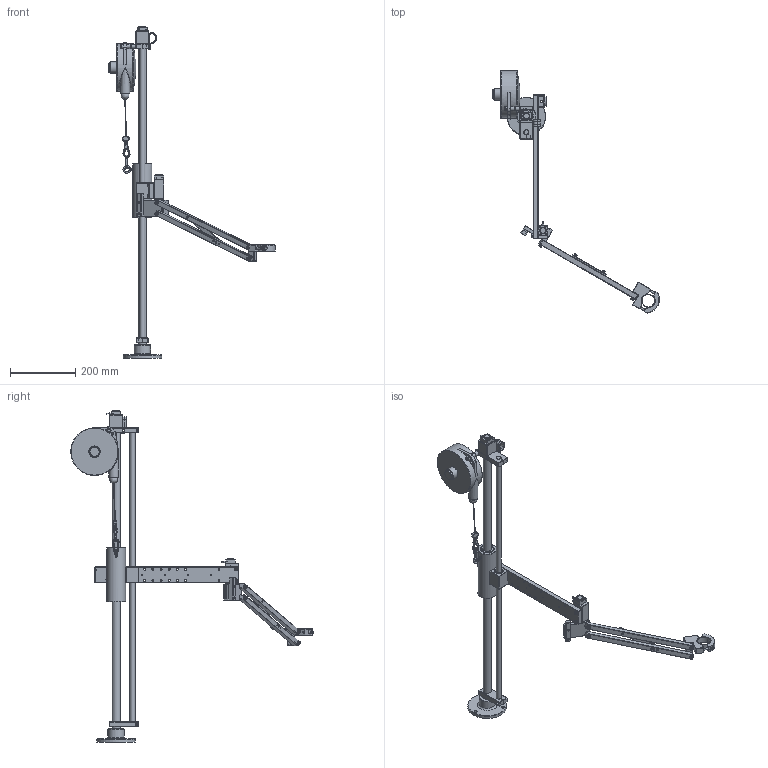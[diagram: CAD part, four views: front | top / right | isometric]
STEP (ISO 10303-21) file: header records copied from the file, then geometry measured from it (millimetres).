
FILE_DESCRIPTION( ( 'Unknown' ), '1' );
FILE_NAME( 'E:/0 Travail/0 Travaux en cours/Doga/Assemblage 2014/BIBLIOTEQUE 3D/Industrie 2008/08-52-3386 DOGA BA40 R DPA/4-1200473_bras BA 40 RPC/4-1200473_bras BA 40 RPC.stp', 'Unknown', ( 'Unknown' ), ( 'Unknown' ), 'PSStep 14.0', 'Unknown', ' ' );
FILE_SCHEMA( ( 'AUTOMOTIVE_DESIGN { 1 0 10303 214 1 1 1 1 }' ) );
Length unit declared in the file: millimetre
Products named in the file (52): Pince BA40R; pince BA40R; CHC M6x45 fileté sous tete; CHC M6x45 fileté sous tete-oa1; Collier; Placement'; Asm avant bras BA40R-0; 16 Z; Platine 2; Butée BA40R DPA; Carré inférieur BA40R; Règle immobilisatrice; CHC M6x20; CHC M6x30; Pivot N°1 - BA40R DPA; Carré supérieur BA40R; Mat BA40R DPA; Vis HC M8x12 à bout plat; Pied BA40R; Axe mat BA100R DPA; Equilibreur BA40R modifi\X2\00E\X0\; Equilibreur 6 - 8Kg; CHC M8x50; Assem1; Douille KB25; Douille KB25-oa0; Fourreau BA40R; Plaque support BA40R; Roulement à aiguilles HK1616; Rondelle AS1226; Butée à aiguilles AXK1226; Anneau élastique pour arbre 12; Aimant; Douille KB16; Axe Ø16- BA40R DPA; Rondelle AS1730; Butée à aiguilles AXK1730; fourreau supérieur pour BA40R DPA; Anneau élastique pour arbre 16; Entretoise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
Assembly tree (68 placements, depth 4):
  Assem1
    Douille KB25
    Douille KB25-oa0
    Fourreau BA40R
    Plaque support BA40R
    Roulement à aiguilles HK1616  x4
    Rondelle AS1226  x2
    Butée à aiguilles AXK1226
    Anneau élastique pour arbre 12
    Aimant  x2
    Douille KB16
    Axe Ø16- BA40R DPA
    Rondelle AS1730  x2
    Butée à aiguilles AXK1730
    fourreau supérieur pour BA40R DPA
    Anneau élastique pour arbre 16
    Entretoise  x2
    Pivot N°3 - BA12R DPA
    Axe Ø16 DPA
    Platine fixation fourreau pour BA40R DPA
    Platine fixation N°2 - BA40R DPA
    Boitier de dérivation
    Piton M6
    CHC M6x30  x2
    FHC M6x20  x4
    Pivot N°2 - BA40R DPA
    Capteur de position angulaire QUADRO-R  x2
    Cable gros équilibreur
    Collier larg 20
    Collier larg 20
    Mat BA40R DPA
      Vis HC M8x12 à bout plat
      Pied BA40R
      Axe mat BA100R DPA
    Equilibreur BA40R modifi\X2\00E\X0\
      Equilibreur 6 - 8Kg
      CHC M8x50
    Asm avant bras BA40R-0
      16 Z
      Platine 2
      Butée BA40R DPA
      Carré inférieur BA40R
      Règle immobilisatrice
      CHC M6x20  x2
      CHC M6x30  x4
      Pivot N°1 - BA40R DPA
      Carré supérieur BA40R
      Pince BA40R
        pince BA40R
        CHC M6x45 fileté sous tete
        CHC M6x45 fileté sous tete-oa1
        Collier
        Placement'
Bounding box: 509.88 x 742.08 x 1016 mm (x, y, z)
Volume: 3110944.8 mm3; surface area: 623420.1 mm2
Topology: 64 solids, 64 shells, 1652 faces, 3917 edges, 2463 vertices
Faces by surface type: plane 880, cylinder 610, cone 105, torus 41, sphere 9, bspline 7
Full cylindrical faces by diameter (mm): 1 x2, 1.7 x2, 2 x1, 2.459 x14, 2.5 x6, 3.2 x4, 3.242 x8, 3.5 x2, 4.134 x6, 4.3 x2, 4.917 x12, 4.918 x2, 5 x20, 5.5 x2, 5.8 x14, 6 x51, 6.5 x2, 6.647 x2, 6.8 x2, 7 x1, 7.8 x1, 8 x4, 8.5 x5, 9 x6, 10 x10, 11.5 x1, 12 x6, 13 x3, 14 x1, 15.5 x1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
Entity records: 51035 total; most frequent: CARTESIAN_POINT 10870, DIRECTION 6672, ORIENTED_EDGE 5950, EDGE_CURVE 2975, AXIS2_PLACEMENT_3D 2571, EDGE_LOOP 2041, VERTEX_POINT 2007, FACE_OUTER_BOUND 1663
